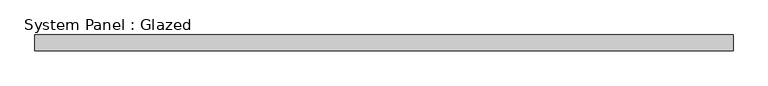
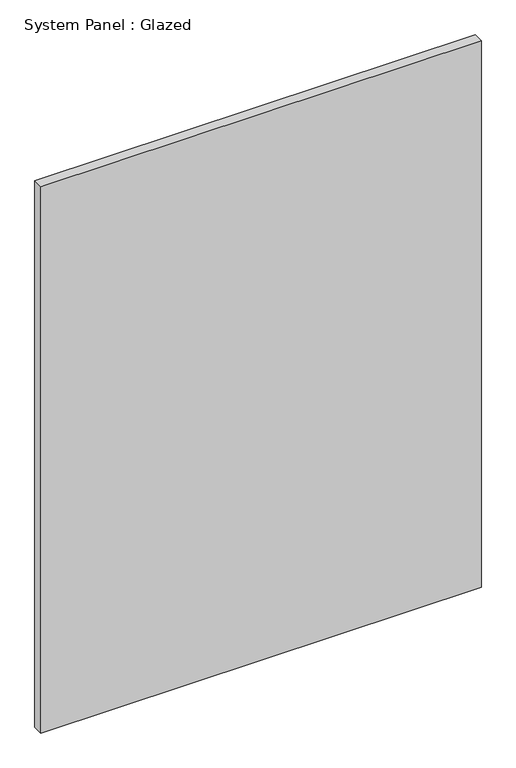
"""IFC4 building model written with IfcOpenShell, lengths in millimetres: plate geometry, System Panel : Glazed."""

import ifcopenshell
import ifcopenshell.guid

model = None  # the IFC model being written
_history = None  # IfcOwnerHistory: only IFC2X3 demands one
_inside = {}  # id of a spatial element -> (the spatial element, [elements in it])
_under = {}  # id of a project, library or spatial element -> (it, [spatial elements below it])
_declared = {}  # id of a project -> (the project, [libraries it declares])
_typed = {}  # id of a type object -> (the type object, [elements of that type])
_made_of = {}  # id of a material, layer set ... -> (it, [elements and type objects made of it])


def new_model(schema):
    """Start an empty IFC model of exactly this schema.

    Asked for "IFC4X3", IfcOpenShell would pick the latest addendum, in which some entities
    have other attributes; the version numbers below select the first issue.
    IFC2X3 requires an IfcOwnerHistory on every rooted entity: one is made here for all.
    """
    global model, _history
    if schema == "IFC4X3":
        model = ifcopenshell.file(schema_version=(4, 3, 0, 0))
    else:
        model = ifcopenshell.file(schema=schema)
    _inside.clear()
    _under.clear()
    _declared.clear()
    _typed.clear()
    _made_of.clear()
    _history = None
    if model.schema == "IFC2X3":
        org = make("IfcOrganization", Name="unknown")
        user = make(
            "IfcPersonAndOrganization",
            ThePerson=make("IfcPerson", FamilyName="unknown"),
            TheOrganization=org,
        )
        app = make(
            "IfcApplication",
            ApplicationDeveloper=org,
            Version="unknown",
            ApplicationFullName="unknown",
            ApplicationIdentifier="unknown",
        )
        _history = make(
            "IfcOwnerHistory",
            OwningUser=user,
            OwningApplication=app,
            ChangeAction="ADDED",
            CreationDate=0,
        )
    return model


def make(cls, **values):
    """One entity of the class cls with the attributes given. An attribute that is None is left unset."""
    return model.create_entity(
        cls, **{name: value for name, value in values.items() if value is not None}
    )


def rooted(cls, **values):
    """An entity with a GlobalId (a new one), such as an element, a storey or a relation."""
    return make(cls, GlobalId=ifcopenshell.guid.new(), OwnerHistory=_history, **values)


def si_unit(unit_type, name, prefix=None):
    """IfcSIUnit, for example si_unit("LENGTHUNIT", "METRE", prefix="MILLI")."""
    return make("IfcSIUnit", UnitType=unit_type, Prefix=prefix, Name=name)


def assignment(units):
    """IfcUnitAssignment: the units of a project."""
    return None if units is None else make("IfcUnitAssignment", Units=units)


def point(xyz):
    """IfcCartesianPoint."""
    return None if xyz is None else make("IfcCartesianPoint", Coordinates=xyz)


def direction(xyz):
    """IfcDirection."""
    return None if xyz is None else make("IfcDirection", DirectionRatios=xyz)


def frame(location, z_axis=None, x_axis=None):
    """IfcAxis2Placement3D, a coordinate frame: its origin and axes. An axis left out is left unset."""
    return make(
        "IfcAxis2Placement3D",
        Location=point(location),
        Axis=direction(z_axis),
        RefDirection=direction(x_axis),
    )


def origin():
    """The frame at (0, 0, 0) with its axes left unset."""
    return frame((0.0, 0.0, 0.0))


def origin_with_axes():
    """The frame at (0, 0, 0) with the z axis (0, 0, 1) and the x axis (1, 0, 0) written out."""
    return frame((0.0, 0.0, 0.0), z_axis=(0.0, 0.0, 1.0), x_axis=(1.0, 0.0, 0.0))


def place(relative_to, where):
    """IfcLocalPlacement: puts the frame where relative to a parent placement (None: the world)."""
    return make(
        "IfcLocalPlacement", PlacementRelTo=relative_to, RelativePlacement=where
    )


def context(
    kind, dimensions, precision=None, world=None, true_north=None, identifier=None
):
    """IfcGeometricRepresentationContext, for example the 3D "Model" context."""
    return make(
        "IfcGeometricRepresentationContext",
        ContextIdentifier=identifier,
        ContextType=kind,
        CoordinateSpaceDimension=dimensions,
        Precision=precision,
        WorldCoordinateSystem=world,
        TrueNorth=true_north,
    )


def project(units=None, contexts=None):
    """IfcProject with its units and contexts."""
    return rooted(
        "IfcProject",
        Name="project",
        RepresentationContexts=contexts,
        UnitsInContext=assignment(units),
    )


def spatial(cls, under=None, at=None, **own):
    """A site, building, storey or space (cls), placed at a placement, below another one or the project."""
    s = rooted(cls, ObjectPlacement=at, **own)
    if under is not None:
        _under.setdefault(under.id(), (under, []))[1].append(s)
    return s


def polyline(points):
    """IfcPolyline through the points."""
    return make("IfcPolyline", Points=[point(p) for p in points])


def outline(outer, holes=None, kind="AREA"):
    """IfcArbitraryClosedProfileDef: a profile drawn as a closed curve; with holes, ...WithVoids."""
    if holes is None:
        return make("IfcArbitraryClosedProfileDef", ProfileType=kind, OuterCurve=outer)
    return make(
        "IfcArbitraryProfileDefWithVoids",
        ProfileType=kind,
        OuterCurve=outer,
        InnerCurves=holes,
    )


def extrude(swept, where, along, depth):
    """IfcExtrudedAreaSolid: the profile swept, set in the frame where, extruded along a direction by depth."""
    return make(
        "IfcExtrudedAreaSolid",
        SweptArea=swept,
        Position=where,
        ExtrudedDirection=direction(along),
        Depth=depth,
    )


def shape(context_of_items, identifier, shape_type, items):
    """IfcShapeRepresentation: the items that make up one representation, for example the "Body"."""
    return make(
        "IfcShapeRepresentation",
        ContextOfItems=context_of_items,
        RepresentationIdentifier=identifier,
        RepresentationType=shape_type,
        Items=items,
    )


def source(mapping_origin, context_of_items, identifier, shape_type, items):
    """IfcRepresentationMap: a shape defined once, which mapped items show again and again."""
    return make(
        "IfcRepresentationMap",
        MappingOrigin=mapping_origin,
        MappedRepresentation=shape(context_of_items, identifier, shape_type, items),
    )


def transform(
    local_origin,
    x_axis=None,
    y_axis=None,
    z_axis=None,
    scale=None,
    scale2=None,
    scale3=None,
    uniform=True,
):
    """IfcCartesianTransformationOperator3D, or its non-uniform kind. x_axis, y_axis, z_axis: its Axis1, 2, 3."""
    if uniform:
        return make(
            "IfcCartesianTransformationOperator3D",
            Axis1=direction(x_axis),
            Axis2=direction(y_axis),
            LocalOrigin=point(local_origin),
            Scale=scale,
            Axis3=direction(z_axis),
        )
    return make(
        "IfcCartesianTransformationOperator3DnonUniform",
        Axis1=direction(x_axis),
        Axis2=direction(y_axis),
        LocalOrigin=point(local_origin),
        Scale=scale,
        Axis3=direction(z_axis),
        Scale2=scale2,
        Scale3=scale3,
    )


def mapped(mapping_source, mapping_target):
    """IfcMappedItem: shows the shape of a source again, moved by a transform."""
    return make(
        "IfcMappedItem", MappingSource=mapping_source, MappingTarget=mapping_target
    )


def made_of(thing, what):
    """Note that an element or type object is made of a material, layer set ...; save() writes the relation."""
    if what is not None:
        _made_of.setdefault(what.id(), (what, []))[1].append(thing)
    return thing


def element(
    cls,
    number,
    at=None,
    inside=None,
    cuts=None,
    type_object=None,
    material=None,
    context=None,
    identifier="Body",
    shape_type=None,
    held_by="IfcProductDefinitionShape",
    body=None,
    shapes=None,
    **own,
):
    """One element of the class cls, such as IfcWall. Its Tag is "e" and its number.

    at: its placement. inside: the storey or other place that contains it. cuts: it is an
    opening in that element (IfcRelVoidsElement). A single representation is given by context,
    identifier, shape_type and body (its items); several are given by shapes. held_by: the class
    of the entity that holds the representations. save() writes the other relations.
    """
    e = rooted(cls, Tag="e%d" % number, ObjectPlacement=at, **own)
    if body is not None:
        shapes = [shape(context, identifier, shape_type, body)]
    if shapes is not None:
        e.Representation = make(held_by, Representations=shapes)
    if inside is not None:
        _inside.setdefault(inside.id(), (inside, []))[1].append(e)
    if cuts is not None:
        rooted(
            "IfcRelVoidsElement", RelatingBuildingElement=cuts, RelatedOpeningElement=e
        )
    if type_object is not None:
        _typed.setdefault(type_object.id(), (type_object, []))[1].append(e)
    return made_of(e, material)


def aggregate(whole, parts):
    """IfcRelAggregates: a whole, such as a stair, and the parts it consists of."""
    return rooted("IfcRelAggregates", RelatingObject=whole, RelatedObjects=parts)


def save(model, path):
    """Write the relations noted so far, then the file.

    IfcRelAggregates (storeys below a building ...), IfcRelContainedInSpatialStructure (elements
    in a storey), IfcRelDefinesByType, IfcRelAssociatesMaterial and IfcRelDeclares: one each for
    every whole, place, type object, material and project.
    """
    for whole, parts in _under.values():
        aggregate(whole, parts)
    for where, things in _inside.values():
        rooted(
            "IfcRelContainedInSpatialStructure",
            RelatedElements=things,
            RelatingStructure=where,
        )
    for kind, things in _typed.values():
        rooted("IfcRelDefinesByType", RelatedObjects=things, RelatingType=kind)
    for what, things in _made_of.values():
        rooted("IfcRelAssociatesMaterial", RelatedObjects=things, RelatingMaterial=what)
    for by, libraries in _declared.values():
        rooted("IfcRelDeclares", RelatingContext=by, RelatedDefinitions=libraries)
    model.write(path)


def system_panel_glazed_215a4569(model_context):
    return source(origin(), model_context, "Body", "SweptSolid", [
        extrude(outline(polyline([(557.2124999, -44.45), (-557.2124999, -44.45), (-557.2124999, -19.05), (557.2124999, -19.05), (557.2124999, -44.45)])), origin_with_axes(), (0.0, 0.0, 1.0), 1460.5),
    ])


if __name__ == "__main__":
    model = new_model("IFC4")
    model_context = context("Model", 3, world=origin())
    ifc_project = project(units=[si_unit("LENGTHUNIT", "METRE", prefix="MILLI")], contexts=[model_context])
    site = spatial("IfcSite", under=ifc_project)
    building = spatial("IfcBuilding", under=site)
    placement = place(None, origin())
    system_panel_glazed_shape = system_panel_glazed_215a4569(model_context)
    element("IfcPlate", 1, ObjectType="System Panel : Glazed", at=placement, inside=building, context=model_context, shape_type="MappedRepresentation", body=[
        mapped(system_panel_glazed_shape, transform((0.0, 0.0, 0.0), x_axis=(1.0, 0.0, 0.0), y_axis=(0.0, 1.0, 0.0), z_axis=(0.0, 0.0, 1.0))),
    ])
    save(model, "model.ifc")
